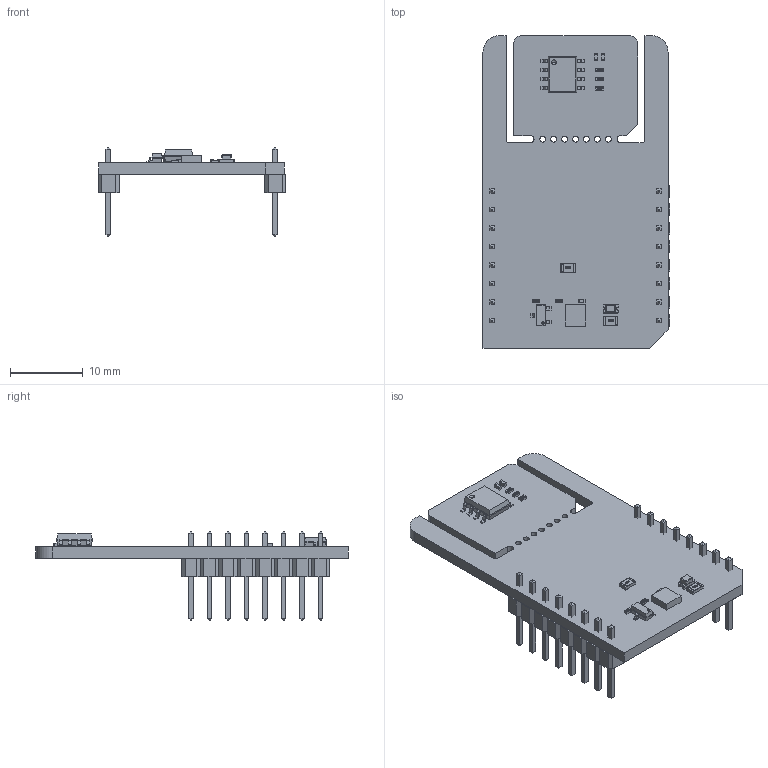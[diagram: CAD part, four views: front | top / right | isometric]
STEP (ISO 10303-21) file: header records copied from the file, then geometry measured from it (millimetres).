
FILE_DESCRIPTION(('Open CASCADE Model'),'2;1');
FILE_NAME('Open CASCADE Shape Model','2026-06-04T15:29:58',('Author'),( 'Open CASCADE'),'Open CASCADE STEP processor 7.5','Open CASCADE 7.5' ,'Unknown');
FILE_SCHEMA(('AUTOMOTIVE_DESIGN { 1 0 10303 214 1 1 1 1 }'));
Length unit declared in the file: millimetre
Products named in the file (32): PCB; Board; Open CASCADE STEP translator 7.5 1.1.1; R3; User Library-R_0402; U2; SOIC-8; R6; R5; C3; User Library-SMD CAPACITOR0402; C2; U1; 7558478912; Extruded; Q1; SOT23-3; R4; C1; R2; LD1; led_0805_green; R1; User Library-R_0805; MBD1; Header 1x8; Free-Models; 1240637040; User_Library-PinHeaderX5-1_PinHeaderX5_Body_1; User_Library-PinHeaderX5-1_PinHeaderX5_Pins_1; JP1
Assembly tree (40 placements, depth 7):
  PCB
    Board
      Open CASCADE STEP translator 7.5 1.1.1
    R3
      User Library-R_0402
    U2
      SOIC-8
    R6
      User Library-R_0402
    R5
      User Library-R_0402
    C3
      User Library-SMD CAPACITOR0402
    C2
      User Library-SMD CAPACITOR0402
    U1
      7558478912
        Extruded
    Q1
      SOT23-3
    R4
      User Library-R_0402
    C1
      User Library-SMD CAPACITOR0402
    R2
      User Library-R_0402
    LD1
      led_0805_green
    R1
      User Library-R_0805
    MBD1
      Header 1x8  x2
        PCB
          Free-Models
            1240637040  x2
              User_Library-PinHeaderX5-1_PinHeaderX5_Body_1
              User_Library-PinHeaderX5-1_PinHeaderX5_Pins_1
    JP1
      User Library-R_0805
Bounding box: 25.78 x 42.93 x 12.19 mm (x, y, z)
Volume: 2174.3 mm3; surface area: 3936.7 mm2
Topology: 44 solids, 44 shells, 1495 faces, 3762 edges, 2388 vertices
Faces by surface type: plane 1131, bspline 214, cylinder 118, sphere 32
Full cylindrical faces by diameter (mm): 0.8 x7
Entity records: 25763 total; most frequent: CARTESIAN_POINT 7608, ORIENTED_EDGE 3118, DIRECTION 2787, EDGE_CURVE 1559, LINE 1241, VECTOR 1241, VERTEX_POINT 994, AXIS2_PLACEMENT_3D 773
